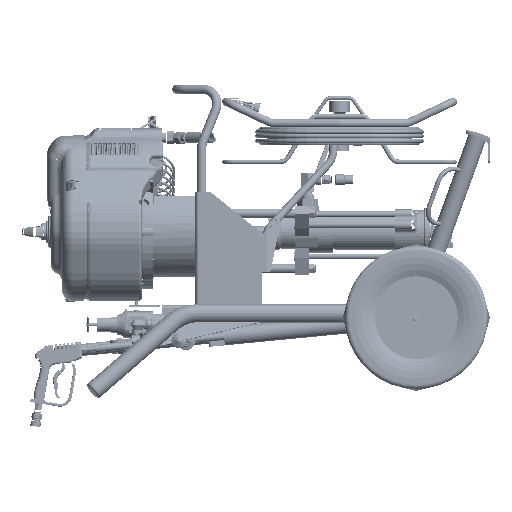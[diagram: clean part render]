
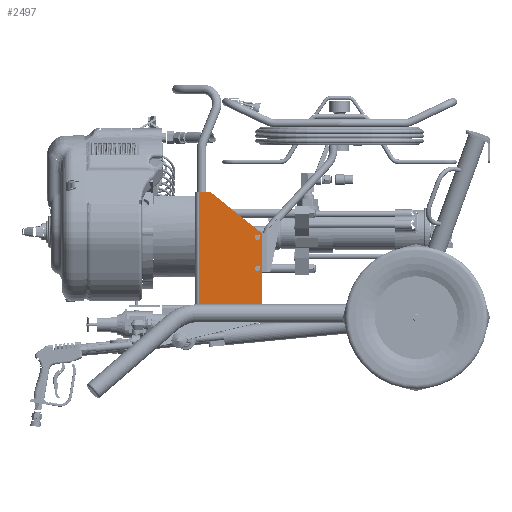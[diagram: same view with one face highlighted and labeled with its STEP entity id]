
A CAD part, left-side view. The second image highlights one B-rep face of the part: STEP entity #2497.
In plain terms, the highlighted planar face has unit normal (-1, 0, 0).
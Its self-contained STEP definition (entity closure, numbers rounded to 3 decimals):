
#62=DIRECTION('',(0.,1.,0.));
#63=VECTOR('',#62,1.077);
#64=CARTESIAN_POINT('',(-7.465,-10.537,4.35));
#65=LINE('',#64,#63);
#78=CARTESIAN_POINT('',(-7.465,-9.46,4.35));
#162=DIRECTION('',(0.,-1.,0.));
#163=VECTOR('',#162,6.89);
#164=CARTESIAN_POINT('',(-7.465,-9.46,-7.887));
#165=LINE('',#164,#163);
#1108=CARTESIAN_POINT('',(-7.465,-10.537,4.35));
#1109=CARTESIAN_POINT('',(-7.465,-10.559,4.35));
#1110=CARTESIAN_POINT('',(-7.465,-10.601,4.346));
#1111=CARTESIAN_POINT('',(-7.465,-10.662,4.331));
#1112=CARTESIAN_POINT('',(-7.465,-10.719,4.305));
#1113=CARTESIAN_POINT('',(-7.465,-10.754,4.282));
#1114=CARTESIAN_POINT('',(-7.465,-10.772,4.268));
#1116=DIRECTION('',(0.,-0.78,-0.626));
#1117=VECTOR('',#1116,6.973);
#1118=CARTESIAN_POINT('',(-7.465,-10.772,4.268));
#1119=LINE('',#1118,#1117);
#1120=CARTESIAN_POINT('',(-7.465,-15.975,-0.39));
#1121=DIRECTION('',(1.,0.,0.));
#1122=DIRECTION('',(0.,-0.626,0.78));
#1123=AXIS2_PLACEMENT_3D('',#1120,#1121,#1122);
#1125=DIRECTION('',(0.,0.,1.));
#1126=VECTOR('',#1125,7.497);
#1127=CARTESIAN_POINT('',(-7.465,-16.35,-7.887));
#1128=LINE('',#1127,#1126);
#1129=DIRECTION('',(0.,0.,-1.));
#1130=VECTOR('',#1129,12.237);
#1131=CARTESIAN_POINT('',(-7.465,-9.46,4.35));
#1132=LINE('',#1131,#1130);
#1138=CARTESIAN_POINT('',(-7.465,-16.35,-7.887));
#1140=VERTEX_POINT('',#1138);
#1262=CARTESIAN_POINT('',(-7.465,-9.46,-7.887));
#1264=VERTEX_POINT('',#1262);
#1268=VERTEX_POINT('',#78);
#1299=CARTESIAN_POINT('',(-7.465,-10.537,4.35));
#1300=VERTEX_POINT('',#1299);
#1323=VERTEX_POINT('',#1114);
#1333=CARTESIAN_POINT('',(-7.465,-16.35,-0.39));
#1334=CARTESIAN_POINT('',(-7.465,-16.21,-0.097));
#1335=VERTEX_POINT('',#1333);
#1336=VERTEX_POINT('',#1334);
#2480=CARTESIAN_POINT('',(-7.465,-9.1,-1.73));
#2481=DIRECTION('',(-1.,0.,0.));
#2482=DIRECTION('',(0.,0.,1.));
#2483=AXIS2_PLACEMENT_3D('',#2480,#2481,#2482);
#2484=PLANE('',#2483);
#2485=ORIENTED_EDGE('',*,*,#1491,.F.);
#2487=ORIENTED_EDGE('',*,*,#2486,.T.);
#2488=ORIENTED_EDGE('',*,*,#2475,.T.);
#2490=ORIENTED_EDGE('',*,*,#2489,.T.);
#2491=ORIENTED_EDGE('',*,*,#1566,.F.);
#2492=ORIENTED_EDGE('',*,*,#1582,.F.);
#2494=ORIENTED_EDGE('',*,*,#2493,.F.);
#2495=EDGE_LOOP('',(#2485,#2487,#2488,#2490,#2491,#2492,#2494));
#2496=FACE_OUTER_BOUND('',#2495,.F.);
#2497=ADVANCED_FACE('',(#2496),#2484,.T.);
#1115=B_SPLINE_CURVE_WITH_KNOTS('',3,(#1108,#1109,#1110,#1111,#1112,#1113,
#1114),.UNSPECIFIED.,.F.,.F.,(4,1,1,1,4),(0.,0.25,0.5,0.75,1.),
.UNSPECIFIED.);
#1124=CIRCLE('',#1123,0.375);
#1491=EDGE_CURVE('',#1300,#1268,#65,.T.);
#1566=EDGE_CURVE('',#1140,#1335,#1128,.T.);
#1582=EDGE_CURVE('',#1264,#1140,#165,.T.);
#2475=EDGE_CURVE('',#1323,#1336,#1119,.T.);
#2486=EDGE_CURVE('',#1300,#1323,#1115,.T.);
#2489=EDGE_CURVE('',#1336,#1335,#1124,.T.);
#2493=EDGE_CURVE('',#1268,#1264,#1132,.T.);
